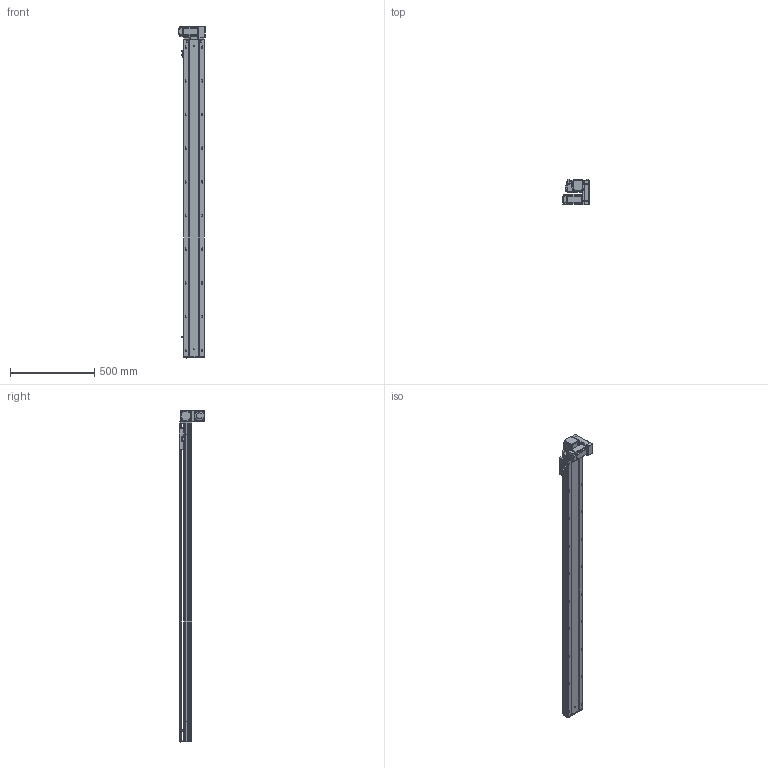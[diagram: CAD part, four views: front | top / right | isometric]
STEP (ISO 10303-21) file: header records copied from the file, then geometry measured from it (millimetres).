
FILE_DESCRIPTION (( 'STEP AP203' ), '1' );
FILE_NAME ('RY120-T-300-DR.SLDASM_1650.step', '2021-03-01T03:36:50', ( '盈信电脑' ), ( '东莞市道滘镇水果街19号' ), 'SwSTEP 2.0', 'SolidWorks 2012', '' );
FILE_SCHEMA (( 'CONFIG_CONTROL_DESIGN' ));
Products named in the file (17): RY120-T主同步轮轴承压盖; RY120-T-300-DR.SLDASM_1650; RY120-T蹟翐M4; 15; RY120-T萇儂欶; RY120-T萇儂假蚾啣; RY120-T翋肮祭謫裔啣; 滅袉蝶18-10; RY120-T肮祭湍揤踡輸2; RY120-T翋肮祭盓傅釱; RY120外置感应片(140共用）; RY120-T肮祭湍揤踡輸1; 覜茼ん672; RY120-T-300-DR倰第奻裔啣_1650; RY120肮祭湍臏賑輸; RY120-T-300-DR倰第菁釱_1650; RY120綴裔啣
Assembly tree (22 placements, depth 2):
  RY120-T-300-DR.SLDASM_1650
    RY120-T-300-DR倰第菁釱_1650
    RY120-T-300-DR倰第奻裔啣_1650
    RY120肮祭湍臏賑輸
    RY120綴裔啣
    覜茼ん672  x3
    RY120外置感应片(140共用）
    RY120-T肮祭湍揤踡輸1
    RY120-T肮祭湍揤踡輸2
    RY120-T翋肮祭盓傅釱
    滅袉蝶18-10  x2
    RY120-T翋肮祭謫裔啣
    15
    RY120-T萇儂假蚾啣
    RY120-T蹟翐M4  x4
    RY120-T萇儂欶
    RY120-T主同步轮轴承压盖
Bounding box: 155.5 x 150 x 1971 mm (x, y, z)
Volume: 5039651.5 mm3; surface area: 1914635.3 mm2
Topology: 23 solids, 23 shells, 3030 faces, 8288 edges, 5292 vertices
Faces by surface type: plane 1446, cylinder 1196, cone 299, bspline 89
Entity records: 97295 total; most frequent: CARTESIAN_POINT 25294, ORIENTED_EDGE 14912, DIRECTION 14062, EDGE_CURVE 7456, VERTEX_POINT 4879, AXIS2_PLACEMENT_3D 4759, LINE 4544, VECTOR 4544
